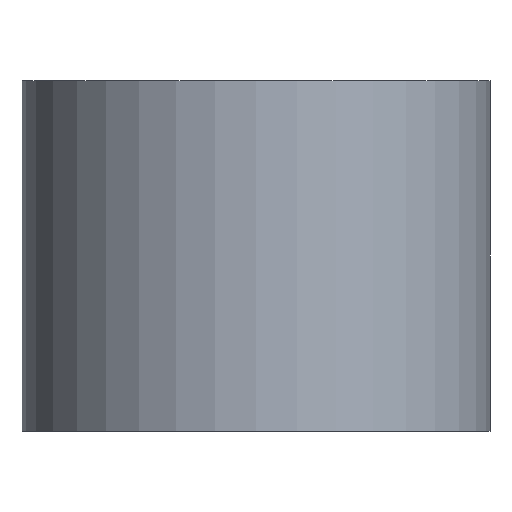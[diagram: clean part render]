
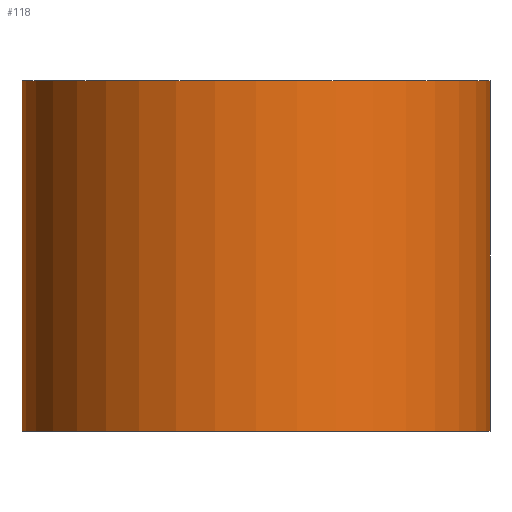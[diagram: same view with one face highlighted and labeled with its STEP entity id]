
A CAD part, front view. The second image highlights one B-rep face of the part: STEP entity #118.
In plain terms, the highlighted cylindrical face has radius 40 mm (diameter 80 mm), a partial arc.
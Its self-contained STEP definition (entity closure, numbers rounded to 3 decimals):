
#100=CYLINDRICAL_SURFACE('',#199,40.);
#104=FACE_OUTER_BOUND('',#132,.T.);
#107=LINE('',#257,#111);
#108=LINE('',#258,#112);
#111=VECTOR('',#228,1.);
#112=VECTOR('',#229,1.);
#118=ADVANCED_FACE('',(#104),#100,.T.);
#132=EDGE_LOOP('',(#153,#154,#155,#156));
#153=ORIENTED_EDGE('',*,*,#175,.F.);
#154=ORIENTED_EDGE('',*,*,#174,.T.);
#155=ORIENTED_EDGE('',*,*,#176,.T.);
#156=ORIENTED_EDGE('',*,*,#165,.F.);
#157=VERTEX_POINT('',#236);
#158=VERTEX_POINT('',#237);
#163=VERTEX_POINT('',#253);
#164=VERTEX_POINT('',#254);
#165=EDGE_CURVE('',#157,#158,#177,.T.);
#174=EDGE_CURVE('',#164,#163,#184,.T.);
#175=EDGE_CURVE('',#164,#157,#107,.T.);
#176=EDGE_CURVE('',#163,#158,#108,.T.);
#177=CIRCLE('',#186,40.);
#184=CIRCLE('',#196,40.);
#186=AXIS2_PLACEMENT_3D('',#235,#202,#203);
#196=AXIS2_PLACEMENT_3D('',#255,#224,#225);
#199=AXIS2_PLACEMENT_3D('',#260,#232,#233);
#202=DIRECTION('',(0.,0.,1.));
#203=DIRECTION('',(0.,1.,0.));
#224=DIRECTION('',(0.,0.,1.));
#225=DIRECTION('',(0.,1.,0.));
#228=DIRECTION('',(0.,0.,1.));
#229=DIRECTION('',(0.,0.,1.));
#232=DIRECTION('',(0.,0.,1.));
#233=DIRECTION('',(0.,-1.,0.));
#235=CARTESIAN_POINT('',(0.,0.,60.));
#236=CARTESIAN_POINT('',(-40.,0.,60.));
#237=CARTESIAN_POINT('',(40.,0.,60.));
#253=CARTESIAN_POINT('',(40.,0.,0.));
#254=CARTESIAN_POINT('',(-40.,0.,0.));
#255=CARTESIAN_POINT('',(0.,0.,0.));
#257=CARTESIAN_POINT('',(-40.,0.,60.));
#258=CARTESIAN_POINT('',(40.,0.,60.));
#260=CARTESIAN_POINT('',(0.,0.,0.));
